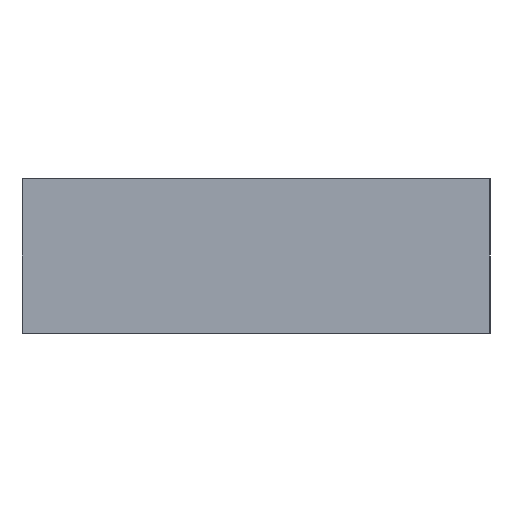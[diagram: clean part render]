
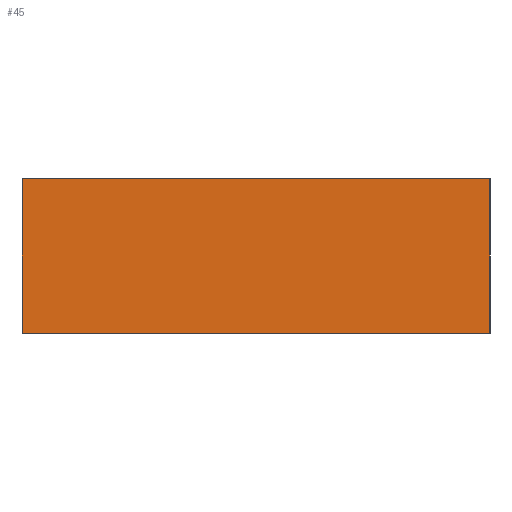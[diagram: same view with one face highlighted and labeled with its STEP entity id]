
A CAD part, left-side view. The second image highlights one B-rep face of the part: STEP entity #45.
In plain terms, the highlighted planar face has unit normal (-1, 0, 0).
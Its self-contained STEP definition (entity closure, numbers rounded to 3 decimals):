
#45 = ADVANCED_FACE('',(#46),#80,.F.);
#46 = FACE_BOUND('',#47,.F.);
#47 = EDGE_LOOP('',(#48,#58,#66,#74));
#48 = ORIENTED_EDGE('',*,*,#49,.T.);
#49 = EDGE_CURVE('',#50,#52,#54,.T.);
#50 = VERTEX_POINT('',#51);
#51 = CARTESIAN_POINT('',(0.,10.,0.));
#52 = VERTEX_POINT('',#53);
#53 = CARTESIAN_POINT('',(0.,10.,3.294));
#54 = LINE('',#55,#56);
#55 = CARTESIAN_POINT('',(0.,10.,0.));
#56 = VECTOR('',#57,1.);
#57 = DIRECTION('',(0.,0.,1.));
#58 = ORIENTED_EDGE('',*,*,#59,.T.);
#59 = EDGE_CURVE('',#52,#60,#62,.T.);
#60 = VERTEX_POINT('',#61);
#61 = CARTESIAN_POINT('',(0.,0.,3.294));
#62 = LINE('',#63,#64);
#63 = CARTESIAN_POINT('',(0.,10.,3.294));
#64 = VECTOR('',#65,1.);
#65 = DIRECTION('',(0.,-1.,0.));
#66 = ORIENTED_EDGE('',*,*,#67,.F.);
#67 = EDGE_CURVE('',#68,#60,#70,.T.);
#68 = VERTEX_POINT('',#69);
#69 = CARTESIAN_POINT('',(0.,0.,0.));
#70 = LINE('',#71,#72);
#71 = CARTESIAN_POINT('',(0.,0.,0.));
#72 = VECTOR('',#73,1.);
#73 = DIRECTION('',(0.,0.,1.));
#74 = ORIENTED_EDGE('',*,*,#75,.F.);
#75 = EDGE_CURVE('',#50,#68,#76,.T.);
#76 = LINE('',#77,#78);
#77 = CARTESIAN_POINT('',(0.,10.,0.));
#78 = VECTOR('',#79,1.);
#79 = DIRECTION('',(0.,-1.,0.));
#80 = PLANE('',#81);
#81 = AXIS2_PLACEMENT_3D('',#82,#83,#84);
#82 = CARTESIAN_POINT('',(0.,10.,0.));
#83 = DIRECTION('',(1.,0.,-0.));
#84 = DIRECTION('',(0.,-1.,0.));
